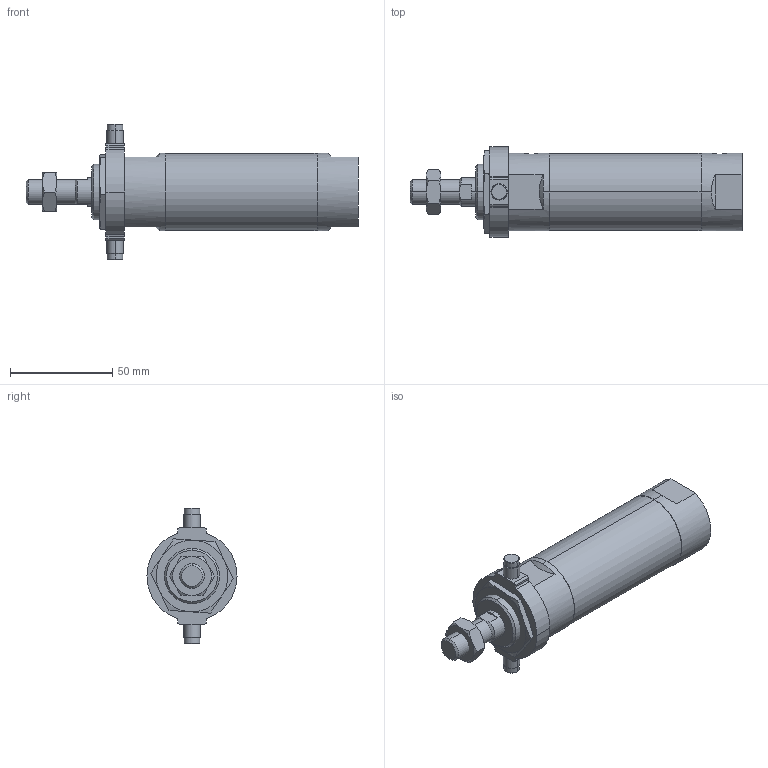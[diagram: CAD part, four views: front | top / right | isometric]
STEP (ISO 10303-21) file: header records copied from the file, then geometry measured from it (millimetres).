
FILE_DESCRIPTION (( 'STEP AP203' ), '1' );
FILE_NAME ('JGND2-32-25-T.STEP', '2016-08-04T02:47:48', ( '' ), ( '' ), 'SwSTEP 2.0', 'SolidWorks 2014', '' );
FILE_SCHEMA (( 'CONFIG_CONTROL_DESIGN' ));
Length unit declared in the file: millimetre
Products named in the file (5): JGND2-32-25-T; J#2-32-T; J#2-32-25(P)
Assembly tree (4 placements, depth 2):
  JGND2-32-25-T
    J#2-32-25(P)
    (unnamed)
    (unnamed)
    J#2-32-T
Bounding box: 162 x 44 x 66 mm (x, y, z)
Volume: 149503.7 mm3; surface area: 26837.7 mm2
Topology: 4 solids, 4 shells, 128 faces, 293 edges, 177 vertices
Faces by surface type: plane 42, cylinder 41, torus 24, cone 21
Entity records: 4519 total; most frequent: CARTESIAN_POINT 1160, DIRECTION 614, ORIENTED_EDGE 578, EDGE_CURVE 289, AXIS2_PLACEMENT_3D 253, VERTEX_POINT 177, EDGE_LOOP 142, ADVANCED_FACE 128
